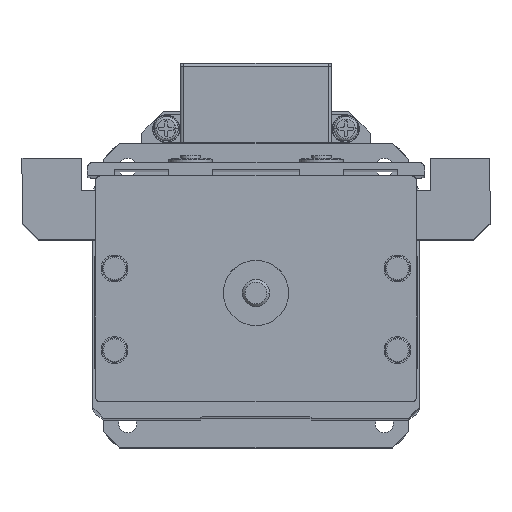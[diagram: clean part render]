
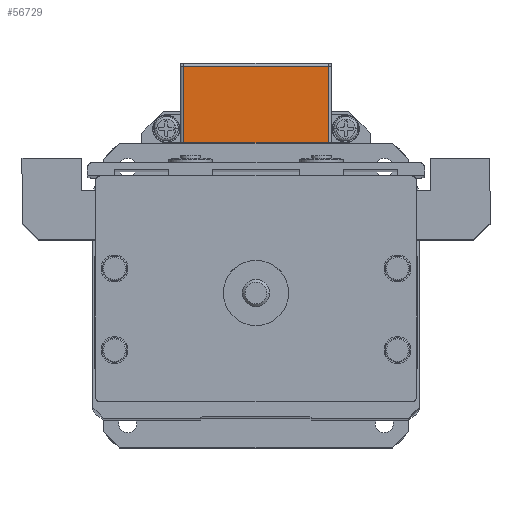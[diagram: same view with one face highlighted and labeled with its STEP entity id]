
A CAD part, top view. The second image highlights one B-rep face of the part: STEP entity #56729.
In plain terms, the highlighted planar face has unit normal (0, 0, 1).
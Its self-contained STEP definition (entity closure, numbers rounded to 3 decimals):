
#805 = FACE_OUTER_BOUND ( 'NONE', #11011, .T. ) ;
#1633 = VERTEX_POINT ( 'NONE', #69198 ) ;
#1846 = CARTESIAN_POINT ( 'NONE',  ( 13.3, 35.205, -63.2 ) ) ;
#1962 = EDGE_CURVE ( 'NONE', #12236, #50451, #46497, .T. ) ;
#4138 = CARTESIAN_POINT ( 'NONE',  ( -13.595, 42.2, -63.2 ) ) ;
#4909 = VERTEX_POINT ( 'NONE', #24770 ) ;
#4966 = CARTESIAN_POINT ( 'NONE',  ( 13.29, 42.2, -63.2 ) ) ;
#5768 = VECTOR ( 'NONE', #69520, 1000. ) ;
#7218 = VECTOR ( 'NONE', #58989, 1000. ) ;
#7242 = CARTESIAN_POINT ( 'NONE',  ( -13.29, 35.205, -63.2 ) ) ;
#11011 = EDGE_LOOP ( 'NONE', ( #52625, #65947, #38131, #65378, #41589, #16027, #54849, #57936 ) ) ;
#12236 = VERTEX_POINT ( 'NONE', #36083 ) ;
#12719 = VECTOR ( 'NONE', #48228, 1000. ) ;
#13827 = CARTESIAN_POINT ( 'NONE',  ( 0., 28.2, -63.2 ) ) ;
#15761 = CARTESIAN_POINT ( 'NONE',  ( -13.3, 28.2, -63.2 ) ) ;
#16027 = ORIENTED_EDGE ( 'NONE', *, *, #20338, .F. ) ;
#18783 = EDGE_CURVE ( 'NONE', #50451, #38143, #32587, .T. ) ;
#20338 = EDGE_CURVE ( 'NONE', #4909, #36167, #67580, .T. ) ;
#22233 = LINE ( 'NONE', #13827, #7218 ) ;
#22365 = LINE ( 'NONE', #7242, #48846 ) ;
#22732 = CARTESIAN_POINT ( 'NONE',  ( 13.29, 42.21, -63.2 ) ) ;
#23522 = AXIS2_PLACEMENT_3D ( 'NONE', #66914, #33122, #72624 ) ;
#24770 = CARTESIAN_POINT ( 'NONE',  ( 13.3, 42.2, -63.2 ) ) ;
#27160 = PLANE ( 'NONE',  #23522 ) ;
#29401 = VECTOR ( 'NONE', #43652, 1000. ) ;
#32422 = CARTESIAN_POINT ( 'NONE',  ( -13.3, 35.205, -63.2 ) ) ;
#32587 = LINE ( 'NONE', #69029, #60830 ) ;
#33122 = DIRECTION ( 'NONE',  ( 0., 0., -1. ) ) ;
#36083 = CARTESIAN_POINT ( 'NONE',  ( -13.29, 42.21, -63.2 ) ) ;
#36167 = VERTEX_POINT ( 'NONE', #59399 ) ;
#38131 = ORIENTED_EDGE ( 'NONE', *, *, #38618, .F. ) ;
#38143 = VERTEX_POINT ( 'NONE', #4966 ) ;
#38618 = EDGE_CURVE ( 'NONE', #59741, #1633, #44412, .T. ) ;
#41589 = ORIENTED_EDGE ( 'NONE', *, *, #50727, .T. ) ;
#43652 = DIRECTION ( 'NONE',  ( 1., 0., 0. ) ) ;
#44007 = EDGE_CURVE ( 'NONE', #47604, #59741, #64040, .T. ) ;
#44208 = DIRECTION ( 'NONE',  ( 1., 0., 0. ) ) ;
#44412 = LINE ( 'NONE', #4138, #29401 ) ;
#46269 = LINE ( 'NONE', #70755, #12719 ) ;
#46497 = LINE ( 'NONE', #49873, #66836 ) ;
#47604 = VERTEX_POINT ( 'NONE', #15761 ) ;
#48228 = DIRECTION ( 'NONE',  ( 1., 0., 0. ) ) ;
#48846 = VECTOR ( 'NONE', #58115, 1000. ) ;
#49001 = VECTOR ( 'NONE', #55085, 1000. ) ;
#49873 = CARTESIAN_POINT ( 'NONE',  ( 0., 42.21, -63.2 ) ) ;
#50451 = VERTEX_POINT ( 'NONE', #22732 ) ;
#50727 = EDGE_CURVE ( 'NONE', #47604, #36167, #22233, .T. ) ;
#52625 = ORIENTED_EDGE ( 'NONE', *, *, #1962, .F. ) ;
#54849 = ORIENTED_EDGE ( 'NONE', *, *, #68896, .F. ) ;
#55085 = DIRECTION ( 'NONE',  ( 0., 1., 0. ) ) ;
#56729 = ADVANCED_FACE ( 'NONE', ( #805 ), #27160, .F. ) ;
#57686 = DIRECTION ( 'NONE',  ( 0., -1., 0. ) ) ;
#57936 = ORIENTED_EDGE ( 'NONE', *, *, #18783, .F. ) ;
#58115 = DIRECTION ( 'NONE',  ( 0., 1., 0. ) ) ;
#58989 = DIRECTION ( 'NONE',  ( 1., 0., 0. ) ) ;
#59399 = CARTESIAN_POINT ( 'NONE',  ( 13.3, 28.2, -63.2 ) ) ;
#59741 = VERTEX_POINT ( 'NONE', #67197 ) ;
#60830 = VECTOR ( 'NONE', #57686, 1000. ) ;
#64040 = LINE ( 'NONE', #32422, #49001 ) ;
#65378 = ORIENTED_EDGE ( 'NONE', *, *, #44007, .F. ) ;
#65947 = ORIENTED_EDGE ( 'NONE', *, *, #72613, .F. ) ;
#66836 = VECTOR ( 'NONE', #44208, 1000. ) ;
#66914 = CARTESIAN_POINT ( 'NONE',  ( -13.3, 28.2, -63.2 ) ) ;
#67197 = CARTESIAN_POINT ( 'NONE',  ( -13.3, 42.2, -63.2 ) ) ;
#67580 = LINE ( 'NONE', #1846, #5768 ) ;
#68896 = EDGE_CURVE ( 'NONE', #38143, #4909, #46269, .T. ) ;
#69029 = CARTESIAN_POINT ( 'NONE',  ( 13.29, 35.205, -63.2 ) ) ;
#69198 = CARTESIAN_POINT ( 'NONE',  ( -13.29, 42.2, -63.2 ) ) ;
#69520 = DIRECTION ( 'NONE',  ( 0., -1., 0. ) ) ;
#70755 = CARTESIAN_POINT ( 'NONE',  ( 0., 42.2, -63.2 ) ) ;
#72613 = EDGE_CURVE ( 'NONE', #1633, #12236, #22365, .T. ) ;
#72624 = DIRECTION ( 'NONE',  ( 0., 1., 0. ) ) ;
